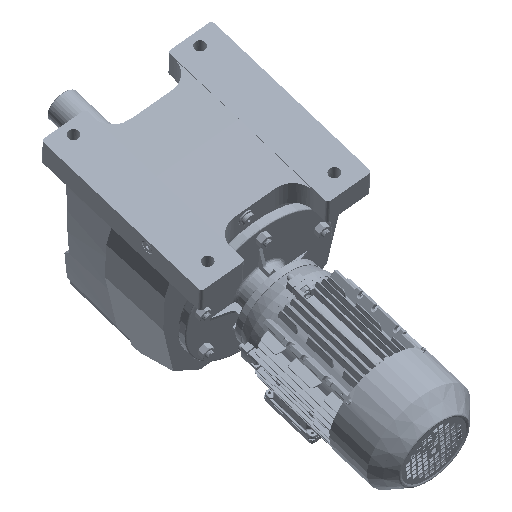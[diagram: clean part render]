
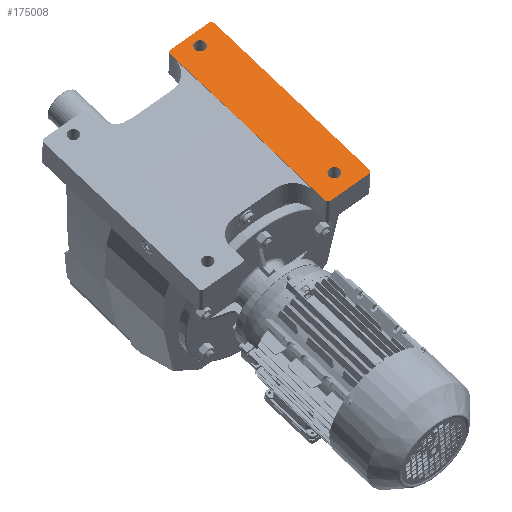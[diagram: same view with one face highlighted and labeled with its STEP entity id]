
A CAD part, front view. The second image highlights one B-rep face of the part: STEP entity #175008.
In plain terms, the highlighted planar face has unit normal (0.025, -0.815, 0.579) as drawn and (0, -1, 0) by its records, which use the part's own axes.
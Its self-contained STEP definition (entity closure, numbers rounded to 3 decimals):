
#12693 = AXIS2_PLACEMENT_3D ( 'NONE', #80107, #80122, #80128 ) ;
#19786 = EDGE_CURVE ( 'NONE', #113817, #113812, #29794, .T. ) ;
#20074 = EDGE_CURVE ( 'NONE', #113941, #114180, #30363, .T. ) ;
#24011 = AXIS2_PLACEMENT_3D ( 'NONE', #37543, #37550, #37547 ) ;
#24118 = AXIS2_PLACEMENT_3D ( 'NONE', #37266, #37318, #37278 ) ;
#29794 = CIRCLE ( 'NONE', #24011, 8.75 ) ;
#30363 = CIRCLE ( 'NONE', #24118, 8.75 ) ;
#37266 = CARTESIAN_POINT ( 'NONE',  ( 107.5, -180., 142. ) ) ;
#37278 = DIRECTION ( 'NONE',  ( 0., 0., -1. ) ) ;
#37318 = DIRECTION ( 'NONE',  ( 0., -1., 0. ) ) ;
#37543 = CARTESIAN_POINT ( 'NONE',  ( 107.5, -180., -118. ) ) ;
#37547 = DIRECTION ( 'NONE',  ( 0., 0., -1. ) ) ;
#37550 = DIRECTION ( 'NONE',  ( 0., 1., 0. ) ) ;
#73126 = FACE_OUTER_BOUND ( 'NONE', #181475, .T. ) ;
#73149 = FACE_BOUND ( 'NONE', #181504, .T. ) ;
#73154 = FACE_BOUND ( 'NONE', #181615, .T. ) ;
#80107 = CARTESIAN_POINT ( 'NONE',  ( 70., -180., -148. ) ) ;
#80116 = PLANE ( 'NONE',  #12693 ) ;
#80122 = DIRECTION ( 'NONE',  ( 0., 1., 0. ) ) ;
#80128 = DIRECTION ( 'NONE',  ( 0., 0., 1. ) ) ;
#82074 = ORIENTED_EDGE ( 'NONE', *, *, #110722, .T. ) ;
#82078 = ORIENTED_EDGE ( 'NONE', *, *, #110887, .F. ) ;
#82159 = ORIENTED_EDGE ( 'NONE', *, *, #114934, .F. ) ;
#82175 = ORIENTED_EDGE ( 'NONE', *, *, #114723, .F. ) ;
#82185 = ORIENTED_EDGE ( 'NONE', *, *, #115265, .F. ) ;
#82187 = ORIENTED_EDGE ( 'NONE', *, *, #115435, .F. ) ;
#82224 = ORIENTED_EDGE ( 'NONE', *, *, #115559, .F. ) ;
#82228 = ORIENTED_EDGE ( 'NONE', *, *, #115542, .T. ) ;
#82248 = ORIENTED_EDGE ( 'NONE', *, *, #115510, .F. ) ;
#82256 = ORIENTED_EDGE ( 'NONE', *, *, #114945, .F. ) ;
#82294 = ORIENTED_EDGE ( 'NONE', *, *, #19786, .T. ) ;
#82318 = ORIENTED_EDGE ( 'NONE', *, *, #115470, .T. ) ;
#82352 = ORIENTED_EDGE ( 'NONE', *, *, #20074, .F. ) ;
#109785 = VERTEX_POINT ( 'NONE', #136009 ) ;
#109874 = VERTEX_POINT ( 'NONE', #136203 ) ;
#109887 = VERTEX_POINT ( 'NONE', #136272 ) ;
#110261 = VERTEX_POINT ( 'NONE', #136946 ) ;
#110290 = VERTEX_POINT ( 'NONE', #136847 ) ;
#110320 = VERTEX_POINT ( 'NONE', #136921 ) ;
#110337 = VERTEX_POINT ( 'NONE', #136836 ) ;
#110480 = VERTEX_POINT ( 'NONE', #131607 ) ;
#110626 = VERTEX_POINT ( 'NONE', #132467 ) ;
#110722 = EDGE_CURVE ( 'NONE', #110290, #110261, #184261, .T. ) ;
#110887 = EDGE_CURVE ( 'NONE', #109785, #110261, #184372, .T. ) ;
#113812 = VERTEX_POINT ( 'NONE', #132144 ) ;
#113817 = VERTEX_POINT ( 'NONE', #132094 ) ;
#113941 = VERTEX_POINT ( 'NONE', #137358 ) ;
#114180 = VERTEX_POINT ( 'NONE', #134035 ) ;
#114723 = EDGE_CURVE ( 'NONE', #114180, #113941, #141157, .T. ) ;
#114934 = EDGE_CURVE ( 'NONE', #109887, #109785, #141411, .T. ) ;
#114945 = EDGE_CURVE ( 'NONE', #109874, #109887, #141362, .T. ) ;
#115265 = EDGE_CURVE ( 'NONE', #110337, #109874, #141630, .T. ) ;
#115435 = EDGE_CURVE ( 'NONE', #110626, #110320, #141678, .T. ) ;
#115470 = EDGE_CURVE ( 'NONE', #113812, #113817, #141690, .T. ) ;
#115510 = EDGE_CURVE ( 'NONE', #110290, #110626, #141773, .T. ) ;
#115542 = EDGE_CURVE ( 'NONE', #110337, #110480, #141768, .T. ) ;
#115559 = EDGE_CURVE ( 'NONE', #110320, #110480, #141722, .T. ) ;
#131607 = CARTESIAN_POINT ( 'NONE',  ( 70., -180., -143. ) ) ;
#132094 = CARTESIAN_POINT ( 'NONE',  ( 107.5, -180., -126.75 ) ) ;
#132144 = CARTESIAN_POINT ( 'NONE',  ( 107.5, -180., -109.25 ) ) ;
#132467 = CARTESIAN_POINT ( 'NONE',  ( 140., -180., -148. ) ) ;
#133072 = CARTESIAN_POINT ( 'NONE',  ( 145., -180., -148. ) ) ;
#133251 = DIRECTION ( 'NONE',  ( 0., 0., 1. ) ) ;
#134035 = CARTESIAN_POINT ( 'NONE',  ( 107.5, -180., 133.25 ) ) ;
#134238 = DIRECTION ( 'NONE',  ( 0., 1., 0. ) ) ;
#134296 = CARTESIAN_POINT ( 'NONE',  ( 140., -180., 157. ) ) ;
#134299 = DIRECTION ( 'NONE',  ( 0., 0., -1. ) ) ;
#136009 = CARTESIAN_POINT ( 'NONE',  ( 140., -180., 162. ) ) ;
#136203 = CARTESIAN_POINT ( 'NONE',  ( 70., -180., 157. ) ) ;
#136272 = CARTESIAN_POINT ( 'NONE',  ( 75., -180., 162. ) ) ;
#136836 = CARTESIAN_POINT ( 'NONE',  ( 70., -180., 24. ) ) ;
#136847 = CARTESIAN_POINT ( 'NONE',  ( 145., -180., -143. ) ) ;
#136921 = CARTESIAN_POINT ( 'NONE',  ( 75., -180., -148. ) ) ;
#136946 = CARTESIAN_POINT ( 'NONE',  ( 145., -180., 157. ) ) ;
#137358 = CARTESIAN_POINT ( 'NONE',  ( 107.5, -180., 150.75 ) ) ;
#141157 = CIRCLE ( 'NONE', #182001, 8.75 ) ;
#141362 = CIRCLE ( 'NONE', #182210, 5. ) ;
#141411 = LINE ( 'NONE', #142691, #141421 ) ;
#141421 = VECTOR ( 'NONE', #142662, 1000. ) ;
#141600 = VECTOR ( 'NONE', #151334, 1000. ) ;
#141630 = LINE ( 'NONE', #151289, #141600 ) ;
#141643 = VECTOR ( 'NONE', #153686, 1000. ) ;
#141678 = LINE ( 'NONE', #153684, #141643 ) ;
#141690 = CIRCLE ( 'NONE', #182359, 8.75 ) ;
#141722 = CIRCLE ( 'NONE', #182451, 5. ) ;
#141767 = VECTOR ( 'NONE', #154218, 1000. ) ;
#141768 = LINE ( 'NONE', #154171, #141767 ) ;
#141773 = CIRCLE ( 'NONE', #182424, 5. ) ;
#142662 = DIRECTION ( 'NONE',  ( 1., 0., 0. ) ) ;
#142673 = CARTESIAN_POINT ( 'NONE',  ( 75., -180., 157. ) ) ;
#142691 = CARTESIAN_POINT ( 'NONE',  ( 70., -180., 162. ) ) ;
#142704 = DIRECTION ( 'NONE',  ( 0., 1., 0. ) ) ;
#142711 = DIRECTION ( 'NONE',  ( -1., 0., 0. ) ) ;
#143565 = CARTESIAN_POINT ( 'NONE',  ( 107.5, -180., 142. ) ) ;
#143566 = DIRECTION ( 'NONE',  ( 0., -1., 0. ) ) ;
#143568 = DIRECTION ( 'NONE',  ( 0., 0., -1. ) ) ;
#151289 = CARTESIAN_POINT ( 'NONE',  ( 70., -180., -148. ) ) ;
#151334 = DIRECTION ( 'NONE',  ( 0., 0., 1. ) ) ;
#153684 = CARTESIAN_POINT ( 'NONE',  ( 145., -180., -148. ) ) ;
#153686 = DIRECTION ( 'NONE',  ( -1., 0., 0. ) ) ;
#153893 = DIRECTION ( 'NONE',  ( 0., 0., -1. ) ) ;
#153943 = DIRECTION ( 'NONE',  ( 0., 1., 0. ) ) ;
#153968 = CARTESIAN_POINT ( 'NONE',  ( 107.5, -180., -118. ) ) ;
#154169 = CARTESIAN_POINT ( 'NONE',  ( 75., -180., -143. ) ) ;
#154171 = CARTESIAN_POINT ( 'NONE',  ( 70., -180., -148. ) ) ;
#154176 = DIRECTION ( 'NONE',  ( 1., 0., 0. ) ) ;
#154202 = CARTESIAN_POINT ( 'NONE',  ( 140., -180., -143. ) ) ;
#154218 = DIRECTION ( 'NONE',  ( 0., 0., -1. ) ) ;
#154232 = DIRECTION ( 'NONE',  ( 0., 1., 0. ) ) ;
#154237 = DIRECTION ( 'NONE',  ( 0., 0., 1. ) ) ;
#154280 = DIRECTION ( 'NONE',  ( 0., 1., 0. ) ) ;
#175008 = ADVANCED_FACE ( 'NONE', ( #73126, #73149, #73154 ), #80116, .F. ) ;
#179796 = AXIS2_PLACEMENT_3D ( 'NONE', #134296, #134238, #134299 ) ;
#181475 = EDGE_LOOP ( 'NONE', ( #82224, #82187, #82248, #82074, #82078, #82159, #82256, #82185, #82228 ) ) ;
#181504 = EDGE_LOOP ( 'NONE', ( #82175, #82352 ) ) ;
#181615 = EDGE_LOOP ( 'NONE', ( #82294, #82318 ) ) ;
#182001 = AXIS2_PLACEMENT_3D ( 'NONE', #143565, #143566, #143568 ) ;
#182210 = AXIS2_PLACEMENT_3D ( 'NONE', #142673, #142704, #142711 ) ;
#182359 = AXIS2_PLACEMENT_3D ( 'NONE', #153968, #153943, #153893 ) ;
#182424 = AXIS2_PLACEMENT_3D ( 'NONE', #154202, #154232, #154237 ) ;
#182451 = AXIS2_PLACEMENT_3D ( 'NONE', #154169, #154280, #154176 ) ;
#184261 = LINE ( 'NONE', #133072, #184279 ) ;
#184279 = VECTOR ( 'NONE', #133251, 1000. ) ;
#184372 = CIRCLE ( 'NONE', #179796, 5. ) ;
